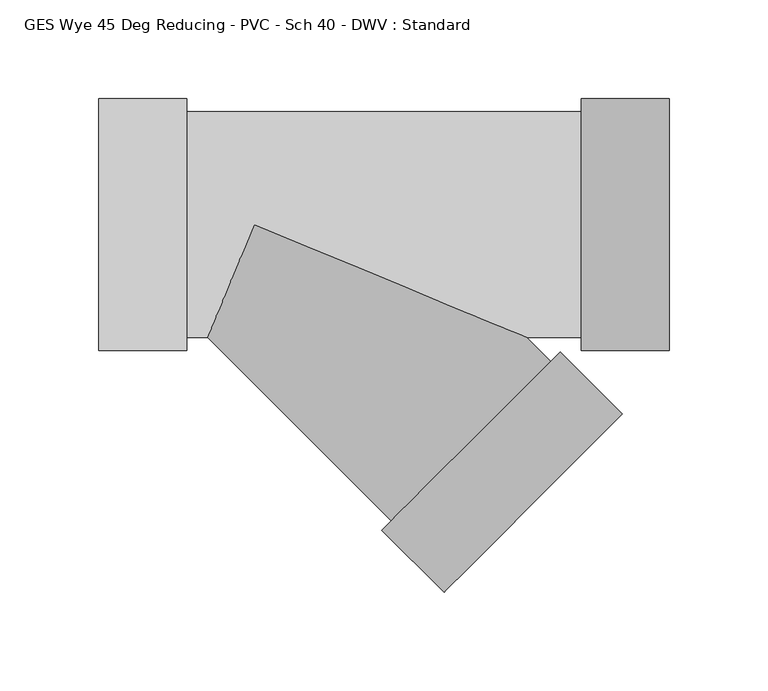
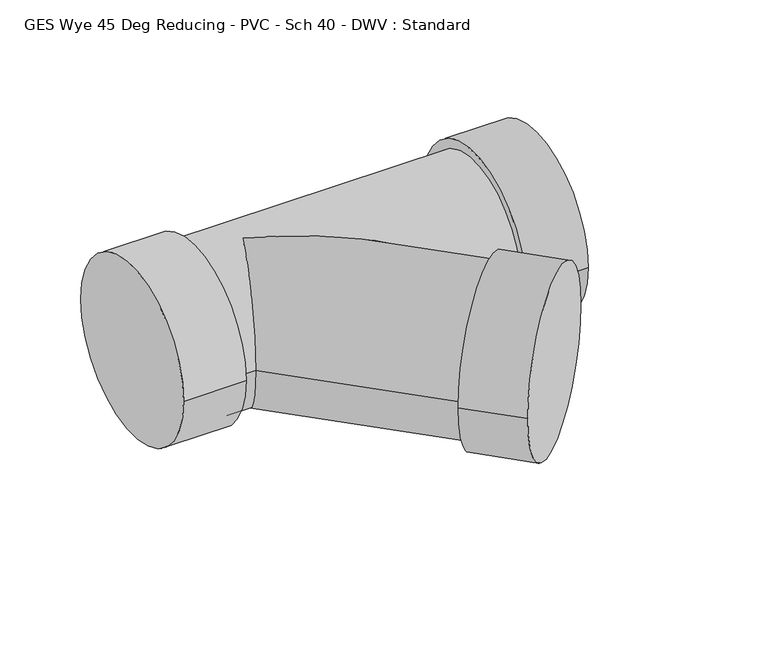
"""IFC4 building model written with IfcOpenShell, lengths in millimetres: pipe fitting geometry, GES Wye 45 Deg Reducing - PVC - Sch 40 - DWV : Standard."""

from ifc_helpers import new_model, si_unit, frame, origin, place, context, project, spatial, circle_curve, ellipse_curve, source, transform, mapped, element, save
from ifc_brep_helpers import plane_surface, cylinder_surface, advanced_brep


def ges_wye_45_deg_reducing_pvc_sch_40_dwv_standard_6ad944a7(model_context):
    return source(origin(), model_context, "Body", "AdvancedBrep", [
        advanced_brep(
        [(-34.2622187, 63.754, 0.0), (-34.2622187, -63.754, 0.0), (-34.2622187, 57.15, 0.0), (-34.2622187, -57.15, 0.0), (-78.7122187, 63.754, 0.0), (-78.7122187, -63.754, 0.0), (165.6159375, -63.754, 0.0), (165.6159375, 63.754, 0.0), (165.6159375, -57.15, 0.0), (165.6159375, 57.15, 0.0), (210.0659375, -63.754, 0.0), (210.0659375, 63.754, 0.0), (137.9810746, -57.15, 0.0), (0.0, 0.0, -57.15), (-23.6708006, -57.15, 0.0), (0.0, 0.0, 57.15), (69.309067, -150.1215107, 0.0), (150.1277398, -69.2955734, 0.0), (64.6395437, -154.7914537, 0.0), (154.7972631, -64.6256304, 0.0), (96.0718526, -186.2209376, 0.0), (186.229572, -96.0551142, 0.0)],
        [
            (0, 1, circle_curve(frame((-34.2622187, 0.0, 0.0), z_axis=(1.0, 0.0, 0.0), x_axis=(0.0, -1.0, 0.0)), 63.754)),
            (1, 0, circle_curve(frame((-34.2622187, 0.0, 0.0), z_axis=(1.0, 0.0, 0.0), x_axis=(0.0, -1.0, 0.0)), 63.754)),
            (2, 3, circle_curve(frame((-34.2622187, 0.0, 0.0), z_axis=(-1.0, 0.0, 0.0), x_axis=(0.0, 0.0, -1.0)), 57.15)),
            (3, 2, circle_curve(frame((-34.2622187, 0.0, 0.0), z_axis=(-1.0, 0.0, 0.0), x_axis=(0.0, 0.0, 1.0)), 57.15)),
            (4, 5, circle_curve(frame((-78.7122187, 0.0, 0.0), z_axis=(-1.0, 0.0, 0.0), x_axis=(0.0, -1.0, 0.0)), 63.754)),
            (5, 4, circle_curve(frame((-78.7122187, 0.0, 0.0), z_axis=(-1.0, 0.0, 0.0), x_axis=(0.0, -1.0, 0.0)), 63.754)),
            (0, 4),
            (5, 1),
            (6, 7, circle_curve(frame((165.6159375, 0.0, 0.0), z_axis=(-1.0, 0.0, 0.0), x_axis=(0.0, 1.0, 0.0)), 63.754)),
            (7, 6, circle_curve(frame((165.6159375, 0.0, 0.0), z_axis=(-1.0, 0.0, 0.0), x_axis=(0.0, 1.0, 0.0)), 63.754)),
            (8, 9, circle_curve(frame((165.6159375, 0.0, 0.0), z_axis=(1.0, 0.0, 0.0), x_axis=(0.0, 0.0, -1.0)), 57.15)),
            (9, 8, circle_curve(frame((165.6159375, 0.0, 0.0), z_axis=(1.0, 0.0, 0.0), x_axis=(0.0, 0.0, 1.0)), 57.15)),
            (10, 11, circle_curve(frame((210.0659375, 0.0, 0.0), z_axis=(1.0, 0.0, 0.0), x_axis=(0.0, 1.0, 0.0)), 63.754)),
            (11, 10, circle_curve(frame((210.0659375, 0.0, 0.0), z_axis=(1.0, 0.0, 0.0), x_axis=(0.0, 1.0, 0.0)), 63.754)),
            (6, 10),
            (11, 7),
            (2, 9),
            (8, 12),
            (12, 13, ellipse_curve(frame((0.0, 0.0, 0.0), z_axis=(0.3826626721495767, 0.9238881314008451, 0.0), x_axis=(0.9238881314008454, -0.3826626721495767, 0.0)), 149.3482489, 57.15)),
            (13, 14, ellipse_curve(frame((0.0, 0.0, 0.0), z_axis=(-0.9238881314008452, 0.3826626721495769, 0.0), x_axis=(0.3826626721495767, 0.9238881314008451, 0.0)), 61.8581385, 57.15)),
            (14, 3),
            (14, 15, ellipse_curve(frame((0.0, 0.0, 0.0), z_axis=(-0.9238881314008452, 0.3826626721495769, 0.0), x_axis=(0.3826626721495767, 0.9238881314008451, 0.0)), 61.8581385, 57.15)),
            (15, 12, ellipse_curve(frame((0.0, 0.0, 0.0), z_axis=(0.3826626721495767, 0.9238881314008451, 0.0), x_axis=(0.9238881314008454, -0.3826626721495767, 0.0)), 149.3482489, 57.15)),
            (14, 16),
            (16, 17, circle_curve(frame((109.7184034, -109.7085421, 0.0), z_axis=(-0.707138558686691, 0.7070750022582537, 0.0), x_axis=(0.7070750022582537, 0.707138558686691, 0.0)), 57.15)),
            (17, 12),
            (17, 16, circle_curve(frame((109.7184034, -109.7085421, 0.0), z_axis=(-0.707138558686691, 0.7070750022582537, 0.0), x_axis=(0.7070750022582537, 0.707138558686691, 0.0)), 57.15)),
            (18, 19, circle_curve(frame((109.7184034, -109.7085421, 0.0), z_axis=(-0.7071385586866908, 0.7070750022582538, 0.0), x_axis=(0.7070750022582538, 0.7071385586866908, 0.0)), 63.754)),
            (19, 18, circle_curve(frame((109.7184034, -109.7085421, 0.0), z_axis=(-0.7071385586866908, 0.7070750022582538, 0.0), x_axis=(0.7070750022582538, 0.7071385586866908, 0.0)), 63.754)),
            (20, 21, circle_curve(frame((141.1507123, -141.1380259, 0.0), z_axis=(0.7071385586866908, -0.7070750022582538, 0.0), x_axis=(0.7070750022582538, 0.7071385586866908, 0.0)), 63.754)),
            (21, 20, circle_curve(frame((141.1507123, -141.1380259, 0.0), z_axis=(0.7071385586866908, -0.7070750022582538, 0.0), x_axis=(0.7070750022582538, 0.7071385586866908, 0.0)), 63.754)),
            (18, 20),
            (21, 19),
        ],
        [
            plane_surface(frame((-34.2622187, 0.0, 0.0), z_axis=(1.0, 0.0, 0.0), x_axis=(0.0, 0.0, 1.0))),
            plane_surface(frame((-78.7122187, 0.0, 0.0), z_axis=(-1.0, 0.0, 0.0), x_axis=(0.0, 0.0, 1.0))),
            cylinder_surface(frame((-34.2622187, 0.0, 0.0), z_axis=(1.0, 0.0, 0.0), x_axis=(0.0, -1.0, 0.0)), 63.754),
            plane_surface(frame((165.6159375, 0.0, 0.0), z_axis=(-1.0, 0.0, 0.0), x_axis=(0.0, 0.0, 1.0))),
            plane_surface(frame((210.0659375, 0.0, 0.0), z_axis=(1.0, 0.0, 0.0), x_axis=(0.0, 0.0, 1.0))),
            cylinder_surface(frame((165.6159375, 0.0, 0.0), z_axis=(-1.0, 0.0, 0.0), x_axis=(0.0, 1.0, 0.0)), 63.754),
            cylinder_surface(frame((-34.2622187, 0.0, 0.0), z_axis=(1.0, 0.0, 0.0), x_axis=(0.0, 0.0, -1.0)), 57.15),
            cylinder_surface(frame((-34.2622187, 0.0, 0.0), z_axis=(1.0, 0.0, 0.0), x_axis=(0.0, 0.0, 1.0)), 57.15),
            cylinder_surface(frame((0.0, 0.0, 0.0), z_axis=(-0.707138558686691, 0.7070750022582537, 0.0), x_axis=(0.7070750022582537, 0.707138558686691, 0.0)), 57.15),
            plane_surface(frame((109.7184034, -109.7085421, 0.0), z_axis=(-0.7071385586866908, 0.7070750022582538, 0.0), x_axis=(0.0, 0.0, 1.0))),
            plane_surface(frame((141.1507123, -141.1380259, 0.0), z_axis=(0.7071385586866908, -0.7070750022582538, 0.0), x_axis=(0.0, 0.0, 1.0))),
            cylinder_surface(frame((109.7184034, -109.7085421, 0.0), z_axis=(-0.7071385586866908, 0.7070750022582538, 0.0), x_axis=(0.7070750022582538, 0.7071385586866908, 0.0)), 63.754),
        ],
        [
            (0, [[1, 2], [3, 4]]),
            (1, [[5, 6]]),
            (2, [[-1, 7, -6, 8]]),
            (2, [[-2, -8, -5, -7]]),
            (3, [[9, 10], [11, 12]]),
            (4, [[13, 14]]),
            (5, [[-9, 15, -14, 16]]),
            (5, [[-10, -16, -13, -15]]),
            (6, [[17, -11, 18, 19, 20, 21, -3]]),
            (7, [[-17, -4, -21, 22, 23, -18, -12]]),
            (8, [[24, 25, 26, -23, -22]]),
            (8, [[-24, -20, -19, -26, 27]]),
            (9, [[28, 29], [-25, -27]]),
            (10, [[30, 31]]),
            (11, [[-28, 32, -31, 33]]),
            (11, [[-29, -33, -30, -32]]),
        ],
    ),
    ])


if __name__ == "__main__":
    model = new_model("IFC4")
    model_context = context("Model", 3, world=origin())
    ifc_project = project(units=[si_unit("LENGTHUNIT", "METRE", prefix="MILLI")], contexts=[model_context])
    site = spatial("IfcSite", under=ifc_project)
    building = spatial("IfcBuilding", under=site)
    placement = place(None, origin())
    ges_wye_45_deg_reducing_pvc_sch_40_dwv_standard_shape = ges_wye_45_deg_reducing_pvc_sch_40_dwv_standard_6ad944a7(model_context)
    element("IfcPipeFitting", 1, ObjectType="GES Wye 45 Deg Reducing - PVC - Sch 40 - DWV : Standard", at=placement, inside=building, context=model_context, shape_type="MappedRepresentation", body=[
        mapped(ges_wye_45_deg_reducing_pvc_sch_40_dwv_standard_shape, transform((0.0, 0.0, 0.0), x_axis=(1.0, 0.0, 0.0), y_axis=(0.0, 1.0, 0.0), z_axis=(0.0, 0.0, 1.0))),
    ])
    save(model, "model.ifc")
